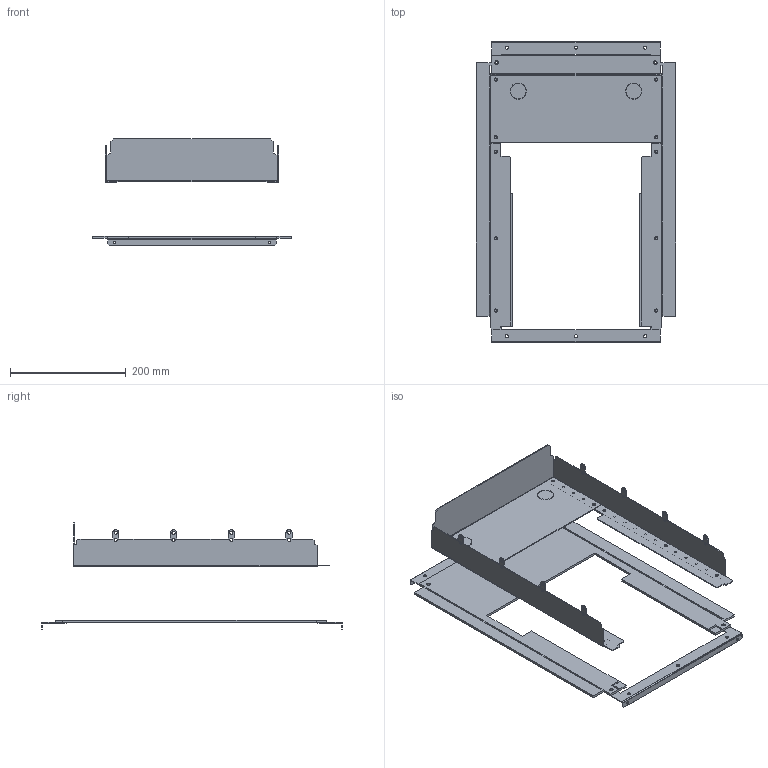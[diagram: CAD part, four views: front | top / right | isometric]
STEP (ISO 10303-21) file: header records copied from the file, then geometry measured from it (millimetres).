
FILE_DESCRIPTION(('CAx-IF Rec.Pracs.---Model Styling and Organization---1.2---2011-12-15','CAx-IF Rec.Pracs.---Geometric and Assembly Validation Properties---4.1---2014-06-16','CAx-IF Rec.Pracs.---PMI Polyline Presentation---2.0---2013-05-24'),'2;1');
FILE_NAME('R5FRC7V41121.stp','2021-07-29T02:04:40+03:00',(''),(''),'STEP Interface 4.4 by CT CoreTechnologie','3D_Evolution4.4 by CT CoreTechnologie','');
FILE_SCHEMA(('AUTOMOTIVE_DESIGN { 1 0 10303 214 1 1 1 1 }'));
Length unit declared in the file: millimetre
Products named in the file (1): R5FRC7V41121
Bounding box: 345 x 521 x 185 mm (x, y, z)
Surface area: 500024.9 mm2 (no closed solid volume)
Topology: 0 solids, 8 shells, 414 faces, 1256 edges, 858 vertices
Faces by surface type: plane 228, cylinder 186
Entity records: 14652 total; most frequent: CARTESIAN_POINT 2529, ORIENTED_EDGE 2512, DIRECTION 2498, EDGE_CURVE 1256, VERTEX_POINT 858, VECTOR 844, LINE 844, AXIS2_PLACEMENT_3D 827
